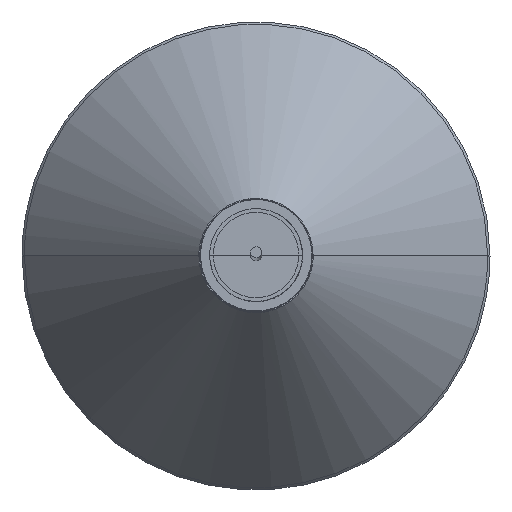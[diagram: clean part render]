
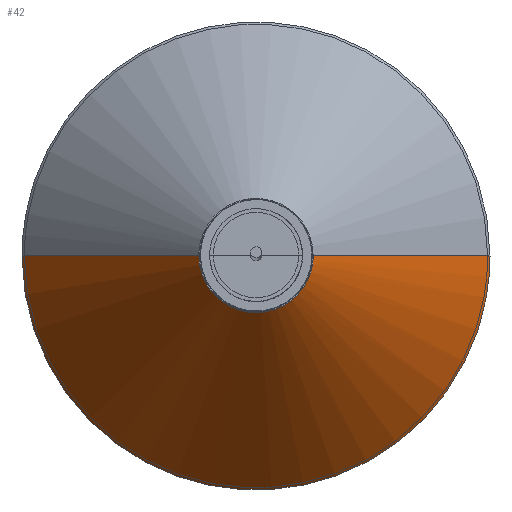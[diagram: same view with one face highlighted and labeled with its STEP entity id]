
A CAD part, top view. The second image highlights one B-rep face of the part: STEP entity #42.
In plain terms, the highlighted free-form (B-spline) face has degree [2, 1] with [5, 2] control points.
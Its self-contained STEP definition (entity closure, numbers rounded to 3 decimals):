
#42=ADVANCED_FACE('',(#80),#1015,.T.);
#80=FACE_OUTER_BOUND('',#118,.T.);
#118=EDGE_LOOP('',(#190,#191,#192,#193));
#190=ORIENTED_EDGE('',*,*,#853,.F.);
#191=ORIENTED_EDGE('',*,*,#842,.F.);
#192=ORIENTED_EDGE('',*,*,#854,.T.);
#193=ORIENTED_EDGE('',*,*,#840,.F.);
#314=PCURVE('',#1009,#462);
#316=PCURVE('',#1009,#464);
#336=PCURVE('',#1014,#484);
#338=PCURVE('',#1015,#486);
#339=PCURVE('',#1015,#487);
#340=PCURVE('',#1015,#488);
#341=PCURVE('',#1015,#489);
#342=PCURVE('',#1016,#490);
#462=DEFINITIONAL_REPRESENTATION('',(#611),#2083);
#464=DEFINITIONAL_REPRESENTATION('',(#614),#2083);
#484=DEFINITIONAL_REPRESENTATION('',(#640),#2083);
#486=DEFINITIONAL_REPRESENTATION('',(#642),#2083);
#487=DEFINITIONAL_REPRESENTATION('',(#643),#2083);
#488=DEFINITIONAL_REPRESENTATION('',(#644),#2083);
#489=DEFINITIONAL_REPRESENTATION('',(#645),#2083);
#490=DEFINITIONAL_REPRESENTATION('',(#646),#2083);
#610=B_SPLINE_CURVE_WITH_KNOTS('',1,(#1331,#1332),.UNSPECIFIED.,.F.,.F.,
(2,2),(-158.392,0.),.UNSPECIFIED.);
#611=B_SPLINE_CURVE_WITH_KNOTS('',1,(#1333,#1334),.UNSPECIFIED.,.F.,.F.,
(2,2),(-158.392,0.),.UNSPECIFIED.);
#613=B_SPLINE_CURVE_WITH_KNOTS('',1,(#1342,#1343),.UNSPECIFIED.,.F.,.F.,
(2,2),(0.,158.392),.UNSPECIFIED.);
#614=B_SPLINE_CURVE_WITH_KNOTS('',1,(#1344,#1345),.UNSPECIFIED.,.F.,.F.,
(2,2),(0.,158.392),.UNSPECIFIED.);
#640=B_SPLINE_CURVE_WITH_KNOTS('',1,(#1421,#1422),.UNSPECIFIED.,.F.,.F.,
(2,2),(-790.755,-395.378),.UNSPECIFIED.);
#642=B_SPLINE_CURVE_WITH_KNOTS('',1,(#1425,#1426),.UNSPECIFIED.,.F.,.F.,
(2,2),(-790.755,-395.378),.UNSPECIFIED.);
#643=B_SPLINE_CURVE_WITH_KNOTS('',1,(#1427,#1428),.UNSPECIFIED.,.F.,.F.,
(2,2),(0.,158.392),.UNSPECIFIED.);
#644=B_SPLINE_CURVE_WITH_KNOTS('',1,(#1434,#1435),.UNSPECIFIED.,.F.,.F.,
(2,2),(-790.755,-395.378),.UNSPECIFIED.);
#645=B_SPLINE_CURVE_WITH_KNOTS('',1,(#1436,#1437),.UNSPECIFIED.,.F.,.F.,
(2,2),(-158.392,0.),.UNSPECIFIED.);
#646=B_SPLINE_CURVE_WITH_KNOTS('',1,(#1438,#1439),.UNSPECIFIED.,.F.,.F.,
(2,2),(-790.755,-395.378),.UNSPECIFIED.);
#766=SURFACE_CURVE('',#610,(#314,#341),.PCURVE_S1.);
#768=SURFACE_CURVE('',#613,(#316,#339),.PCURVE_S1.);
#779=SURFACE_CURVE('',#919,(#336,#338),.PCURVE_S1.);
#780=SURFACE_CURVE('',#920,(#340,#342),.PCURVE_S1.);
#840=EDGE_CURVE('',#973,#974,#766,.T.);
#842=EDGE_CURVE('',#969,#970,#768,.T.);
#853=EDGE_CURVE('',#970,#973,#779,.T.);
#854=EDGE_CURVE('',#969,#974,#780,.T.);
#919=(
BOUNDED_CURVE()
B_SPLINE_CURVE(2,(#1416,#1417,#1418,#1419,#1420),.UNSPECIFIED.,.F.,.F.)
B_SPLINE_CURVE_WITH_KNOTS((3,2,3),(-790.755,-593.066,-395.378),
 .UNSPECIFIED.)
CURVE()
GEOMETRIC_REPRESENTATION_ITEM()
RATIONAL_B_SPLINE_CURVE((1.,0.707,1.,0.707,1.))
REPRESENTATION_ITEM('')
);
#920=(
BOUNDED_CURVE()
B_SPLINE_CURVE(2,(#1429,#1430,#1431,#1432,#1433),.UNSPECIFIED.,.F.,.F.)
B_SPLINE_CURVE_WITH_KNOTS((3,2,3),(-790.755,-593.066,-395.378),
 .UNSPECIFIED.)
CURVE()
GEOMETRIC_REPRESENTATION_ITEM()
RATIONAL_B_SPLINE_CURVE((1.,0.707,1.,0.707,1.))
REPRESENTATION_ITEM('')
);
#969=VERTEX_POINT('',#1284);
#970=VERTEX_POINT('',#1285);
#973=VERTEX_POINT('',#1288);
#974=VERTEX_POINT('',#1289);
#1009=(
BOUNDED_SURFACE()
B_SPLINE_SURFACE(2,1,((#1180,#1181),(#1182,#1183),(#1184,#1185),(#1186,
#1187),(#1188,#1189)),.UNSPECIFIED.,.F.,.F.,.F.)
B_SPLINE_SURFACE_WITH_KNOTS((3,2,3),(2,2),(0.,197.689,395.378),
(-158.392,0.),.UNSPECIFIED.)
GEOMETRIC_REPRESENTATION_ITEM()
RATIONAL_B_SPLINE_SURFACE(((1.,1.),(0.707,0.707),
(1.,1.),(0.707,0.707),(1.,1.)))
REPRESENTATION_ITEM('')
SURFACE()
);
#1014=(
BOUNDED_SURFACE()
B_SPLINE_SURFACE(2,1,((#1230,#1231),(#1232,#1233),(#1234,#1235),(#1236,
#1237),(#1238,#1239)),.UNSPECIFIED.,.F.,.F.,.F.)
B_SPLINE_SURFACE_WITH_KNOTS((3,2,3),(2,2),(395.378,593.066,
790.755),(-176.412,-158.392),.UNSPECIFIED.)
GEOMETRIC_REPRESENTATION_ITEM()
RATIONAL_B_SPLINE_SURFACE(((1.,1.),(0.707,0.707),
(1.,1.),(0.707,0.707),(1.,1.)))
REPRESENTATION_ITEM('')
SURFACE()
);
#1015=(
BOUNDED_SURFACE()
B_SPLINE_SURFACE(2,1,((#1240,#1241),(#1242,#1243),(#1244,#1245),(#1246,
#1247),(#1248,#1249)),.UNSPECIFIED.,.F.,.F.,.F.)
B_SPLINE_SURFACE_WITH_KNOTS((3,2,3),(2,2),(395.378,593.066,
790.755),(-158.392,0.),.UNSPECIFIED.)
GEOMETRIC_REPRESENTATION_ITEM()
RATIONAL_B_SPLINE_SURFACE(((1.,1.),(0.707,0.707),
(1.,1.),(0.707,0.707),(1.,1.)))
REPRESENTATION_ITEM('')
SURFACE()
);
#1016=(
BOUNDED_SURFACE()
B_SPLINE_SURFACE(2,1,((#1250,#1251),(#1252,#1253),(#1254,#1255),(#1256,
#1257),(#1258,#1259)),.UNSPECIFIED.,.F.,.F.,.F.)
B_SPLINE_SURFACE_WITH_KNOTS((3,2,3),(2,2),(395.378,593.066,
790.755),(0.,1.252),.UNSPECIFIED.)
GEOMETRIC_REPRESENTATION_ITEM()
RATIONAL_B_SPLINE_SURFACE(((1.,1.),(0.707,0.707),
(1.,1.),(0.707,0.707),(1.,1.)))
REPRESENTATION_ITEM('')
SURFACE()
);
#1180=CARTESIAN_POINT('',(861.49,0.,21.454));
#1181=CARTESIAN_POINT('',(766.198,0.,-105.065));
#1182=CARTESIAN_POINT('',(861.49,30.81,21.454));
#1183=CARTESIAN_POINT('',(766.198,126.103,-105.065));
#1184=CARTESIAN_POINT('',(892.301,30.81,21.454));
#1185=CARTESIAN_POINT('',(892.301,126.103,-105.065));
#1186=CARTESIAN_POINT('',(923.111,30.81,21.454));
#1187=CARTESIAN_POINT('',(1018.404,126.103,-105.065));
#1188=CARTESIAN_POINT('',(923.111,0.,21.454));
#1189=CARTESIAN_POINT('',(1018.404,0.,-105.065));
#1230=CARTESIAN_POINT('',(905.091,0.,21.454));
#1231=CARTESIAN_POINT('',(923.111,0.,21.454));
#1232=CARTESIAN_POINT('',(905.091,-12.79,21.454));
#1233=CARTESIAN_POINT('',(923.111,-30.81,21.454));
#1234=CARTESIAN_POINT('',(892.301,-12.79,21.454));
#1235=CARTESIAN_POINT('',(892.301,-30.81,21.454));
#1236=CARTESIAN_POINT('',(879.51,-12.79,21.454));
#1237=CARTESIAN_POINT('',(861.49,-30.81,21.454));
#1238=CARTESIAN_POINT('',(879.51,0.,21.454));
#1239=CARTESIAN_POINT('',(861.49,0.,21.454));
#1240=CARTESIAN_POINT('',(923.111,0.,21.454));
#1241=CARTESIAN_POINT('',(1018.404,0.,-105.065));
#1242=CARTESIAN_POINT('',(923.111,-30.81,21.454));
#1243=CARTESIAN_POINT('',(1018.404,-126.103,-105.065));
#1244=CARTESIAN_POINT('',(892.301,-30.81,21.454));
#1245=CARTESIAN_POINT('',(892.301,-126.103,-105.065));
#1246=CARTESIAN_POINT('',(861.49,-30.81,21.454));
#1247=CARTESIAN_POINT('',(766.198,-126.103,-105.065));
#1248=CARTESIAN_POINT('',(861.49,0.,21.454));
#1249=CARTESIAN_POINT('',(766.198,0.,-105.065));
#1250=CARTESIAN_POINT('',(1018.404,0.,-105.065));
#1251=CARTESIAN_POINT('',(1017.152,0.,-105.065));
#1252=CARTESIAN_POINT('',(1018.404,-126.103,-105.065));
#1253=CARTESIAN_POINT('',(1017.152,-124.851,-105.065));
#1254=CARTESIAN_POINT('',(892.301,-126.103,-105.065));
#1255=CARTESIAN_POINT('',(892.301,-124.851,-105.065));
#1256=CARTESIAN_POINT('',(766.198,-126.103,-105.065));
#1257=CARTESIAN_POINT('',(767.45,-124.851,-105.065));
#1258=CARTESIAN_POINT('',(766.198,0.,-105.065));
#1259=CARTESIAN_POINT('',(767.45,0.,-105.065));
#1284=CARTESIAN_POINT('',(766.198,0.,-105.065));
#1285=CARTESIAN_POINT('',(861.49,0.,21.454));
#1288=CARTESIAN_POINT('',(923.111,0.,21.454));
#1289=CARTESIAN_POINT('',(1018.404,0.,-105.065));
#1331=CARTESIAN_POINT('',(923.111,0.,21.454));
#1332=CARTESIAN_POINT('',(1018.404,0.,-105.065));
#1333=CARTESIAN_POINT('',(395.378,-158.392));
#1334=CARTESIAN_POINT('',(395.378,0.));
#1342=CARTESIAN_POINT('',(766.198,0.,-105.065));
#1343=CARTESIAN_POINT('',(861.49,0.,21.454));
#1344=CARTESIAN_POINT('',(0.,0.));
#1345=CARTESIAN_POINT('',(0.,-158.392));
#1416=CARTESIAN_POINT('',(861.49,0.,21.454));
#1417=CARTESIAN_POINT('',(861.49,-30.81,21.454));
#1418=CARTESIAN_POINT('',(892.301,-30.81,21.454));
#1419=CARTESIAN_POINT('',(923.111,-30.81,21.454));
#1420=CARTESIAN_POINT('',(923.111,0.,21.454));
#1421=CARTESIAN_POINT('',(790.755,-158.392));
#1422=CARTESIAN_POINT('',(395.378,-158.392));
#1425=CARTESIAN_POINT('',(790.755,-158.392));
#1426=CARTESIAN_POINT('',(395.378,-158.392));
#1427=CARTESIAN_POINT('',(790.755,0.));
#1428=CARTESIAN_POINT('',(790.755,-158.392));
#1429=CARTESIAN_POINT('',(766.198,0.,-105.065));
#1430=CARTESIAN_POINT('',(766.198,-126.103,-105.065));
#1431=CARTESIAN_POINT('',(892.301,-126.103,-105.065));
#1432=CARTESIAN_POINT('',(1018.404,-126.103,-105.065));
#1433=CARTESIAN_POINT('',(1018.404,0.,-105.065));
#1434=CARTESIAN_POINT('',(790.755,0.));
#1435=CARTESIAN_POINT('',(395.378,0.));
#1436=CARTESIAN_POINT('',(395.378,-158.392));
#1437=CARTESIAN_POINT('',(395.378,0.));
#1438=CARTESIAN_POINT('',(790.755,0.));
#1439=CARTESIAN_POINT('',(395.378,0.));
#2083=(
GEOMETRIC_REPRESENTATION_CONTEXT(2)
PARAMETRIC_REPRESENTATION_CONTEXT()
REPRESENTATION_CONTEXT('pspace','')
);
